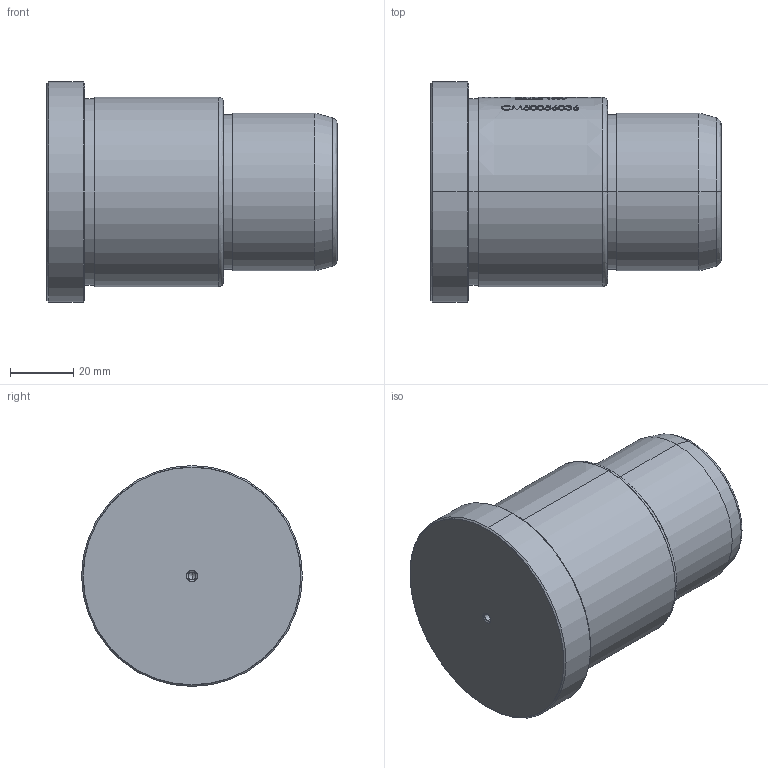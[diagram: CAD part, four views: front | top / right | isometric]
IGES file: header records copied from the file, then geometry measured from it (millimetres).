
Start section: SolidWorks IGES file using analytic representation for surfaces
Global section: file name: D:\TRIVECTOR\2026\08_Agosto\CM - COLUNA PRINCIPAL E31 (CATÁLOGO)\CM50056036.IGS; native system: SolidWorks 2024; preprocessor: SolidWorks 2024; author: Usuario; date: 260902.071739; units: millimetre
Bounding box: 92 x 70 x 70 mm (x, y, z)
Surface area: 24163.9 mm2 (no closed solid volume)
Topology: 0 solids, 0 shells, 466 faces, 6138 edges, 6134 vertices
Faces by surface type: bspline 391, revolution 75
